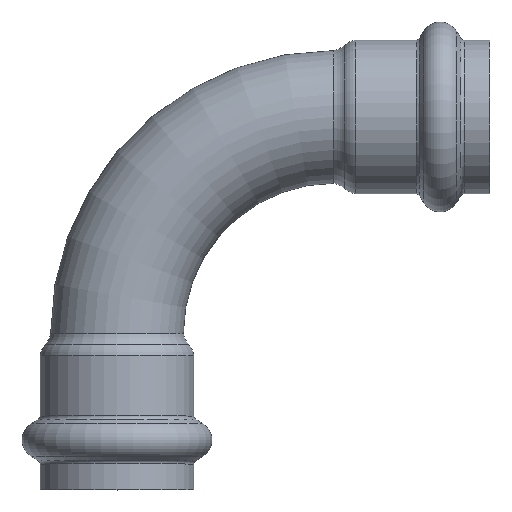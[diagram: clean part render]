
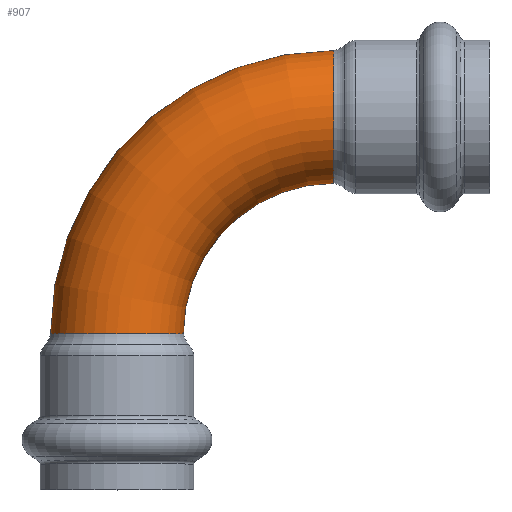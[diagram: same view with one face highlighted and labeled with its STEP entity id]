
A CAD part, top view. The second image highlights one B-rep face of the part: STEP entity #907.
In plain terms, the highlighted toroidal (fillet/blend) face has major radius 43.574 mm and minor radius 13.335 mm.
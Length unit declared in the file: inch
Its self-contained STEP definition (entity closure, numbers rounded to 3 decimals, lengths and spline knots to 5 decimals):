
#125=FACE_OUTER_BOUND('',#164,.T.);
#164=EDGE_LOOP('',(#706,#707,#708,#709,#710,#711,#712,#713));
#188=CIRCLE('',#952,0.525);
#189=CIRCLE('',#953,0.525);
#190=CIRCLE('',#954,0.525);
#241=CIRCLE('',#1022,0.525);
#242=CIRCLE('',#1023,0.525);
#246=CIRCLE('',#1027,0.525);
#256=CIRCLE('',#1041,1.1905);
#308=VERTEX_POINT('',#1496);
#309=VERTEX_POINT('',#1498);
#310=VERTEX_POINT('',#1500);
#355=VERTEX_POINT('',#1623);
#356=VERTEX_POINT('',#1624);
#357=VERTEX_POINT('',#1626);
#414=EDGE_CURVE('',#309,#308,#188,.T.);
#415=EDGE_CURVE('',#310,#309,#189,.T.);
#416=EDGE_CURVE('',#308,#310,#190,.T.);
#476=EDGE_CURVE('',#355,#356,#241,.T.);
#477=EDGE_CURVE('',#357,#355,#242,.T.);
#481=EDGE_CURVE('',#356,#357,#246,.T.);
#492=EDGE_CURVE('',#309,#356,#256,.T.);
#706=ORIENTED_EDGE('',*,*,#415,.T.);
#707=ORIENTED_EDGE('',*,*,#492,.T.);
#708=ORIENTED_EDGE('',*,*,#481,.T.);
#709=ORIENTED_EDGE('',*,*,#477,.T.);
#710=ORIENTED_EDGE('',*,*,#476,.T.);
#711=ORIENTED_EDGE('',*,*,#492,.F.);
#712=ORIENTED_EDGE('',*,*,#414,.T.);
#713=ORIENTED_EDGE('',*,*,#416,.T.);
#838=TOROIDAL_SURFACE('',#1040,1.7155,0.525);
#907=ADVANCED_FACE('',(#125),#838,.T.);
#952=AXIS2_PLACEMENT_3D('',#1499,#1136,#1137);
#953=AXIS2_PLACEMENT_3D('',#1501,#1138,#1139);
#954=AXIS2_PLACEMENT_3D('',#1502,#1140,#1141);
#1022=AXIS2_PLACEMENT_3D('',#1625,#1285,#1286);
#1023=AXIS2_PLACEMENT_3D('',#1627,#1287,#1288);
#1027=AXIS2_PLACEMENT_3D('',#1633,#1295,#1296);
#1040=AXIS2_PLACEMENT_3D('',#1654,#1322,#1323);
#1041=AXIS2_PLACEMENT_3D('',#1655,#1324,#1325);
#1136=DIRECTION('center_axis',(0.,1.,0.));
#1137=DIRECTION('ref_axis',(1.,0.,0.));
#1138=DIRECTION('center_axis',(0.,1.,0.));
#1139=DIRECTION('ref_axis',(1.,0.,0.));
#1140=DIRECTION('center_axis',(0.,1.,0.));
#1141=DIRECTION('ref_axis',(1.,0.,0.));
#1285=DIRECTION('center_axis',(-1.,0.,0.));
#1286=DIRECTION('ref_axis',(0.,-1.,0.));
#1287=DIRECTION('center_axis',(-1.,0.,0.));
#1288=DIRECTION('ref_axis',(0.,-1.,0.));
#1295=DIRECTION('center_axis',(-1.,0.,0.));
#1296=DIRECTION('ref_axis',(0.,-1.,0.));
#1322=DIRECTION('center_axis',(0.,0.,1.));
#1323=DIRECTION('ref_axis',(1.,0.,0.));
#1324=DIRECTION('center_axis',(0.,0.,-1.));
#1325=DIRECTION('ref_axis',(1.,0.,0.));
#1496=CARTESIAN_POINT('',(0.,-1.7155,-0.525));
#1498=CARTESIAN_POINT('',(0.525,-1.7155,0.));
#1499=CARTESIAN_POINT('Origin',(0.,-1.7155,0.));
#1500=CARTESIAN_POINT('',(-0.525,-1.7155,0.));
#1501=CARTESIAN_POINT('Origin',(0.,-1.7155,0.));
#1502=CARTESIAN_POINT('Origin',(0.,-1.7155,0.));
#1623=CARTESIAN_POINT('',(1.7155,0.525,0.));
#1624=CARTESIAN_POINT('',(1.7155,-0.525,0.));
#1625=CARTESIAN_POINT('Origin',(1.7155,0.,0.));
#1626=CARTESIAN_POINT('',(1.7155,0.,0.525));
#1627=CARTESIAN_POINT('Origin',(1.7155,0.,0.));
#1633=CARTESIAN_POINT('Origin',(1.7155,0.,0.));
#1654=CARTESIAN_POINT('Origin',(1.7155,-1.7155,0.));
#1655=CARTESIAN_POINT('Origin',(1.7155,-1.7155,0.));
